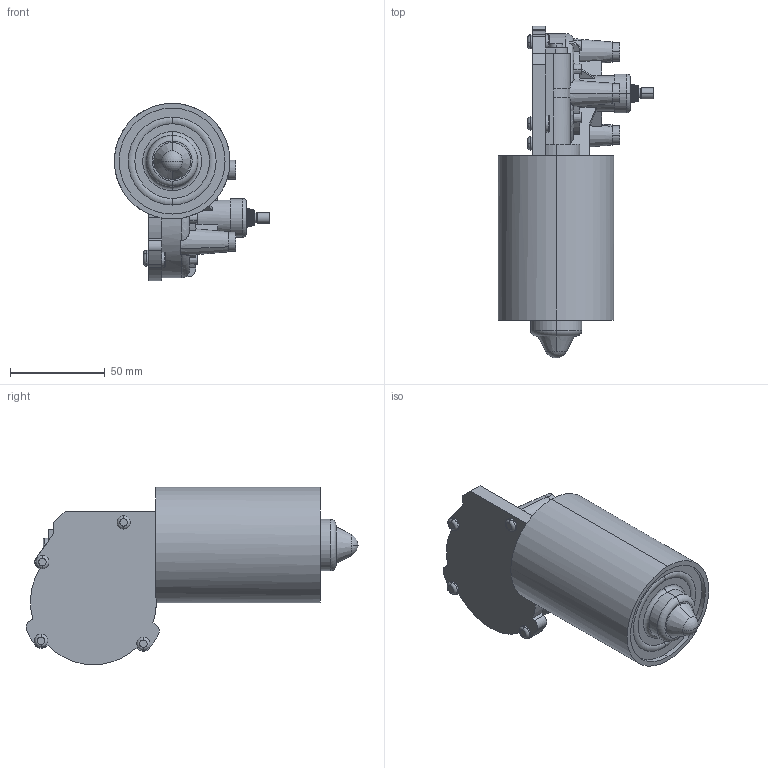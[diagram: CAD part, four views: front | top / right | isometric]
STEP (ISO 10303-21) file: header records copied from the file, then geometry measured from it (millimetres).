
FILE_DESCRIPTION (( 'STEP AP203' ), '1' );
FILE_NAME ('KTC POWER - 042 - 60W.STEP', '2026-07-14T11:02:57', ( '' ), ( '' ), 'SwSTEP 2.0', 'SolidWorks 2019', '' );
FILE_SCHEMA (( 'CONFIG_CONTROL_DESIGN' ));
Length unit declared in the file: millimetre
Products named in the file (1): KTC POWER - 042 - 60W
Bounding box: 82.2 x 175.66 x 93.9 mm (x, y, z)
Volume: 367565.1 mm3; surface area: 45367.2 mm2
Topology: 1 solids, 1 shells, 699 faces, 1830 edges, 1175 vertices
Faces by surface type: plane 429, cylinder 91, cone 81, bspline 62, torus 34, sphere 2
Entity records: 25942 total; most frequent: CARTESIAN_POINT 9168, ORIENTED_EDGE 3652, DIRECTION 3236, EDGE_CURVE 1826, VERTEX_POINT 1175, AXIS2_PLACEMENT_3D 1111, LINE 1014, VECTOR 1014
